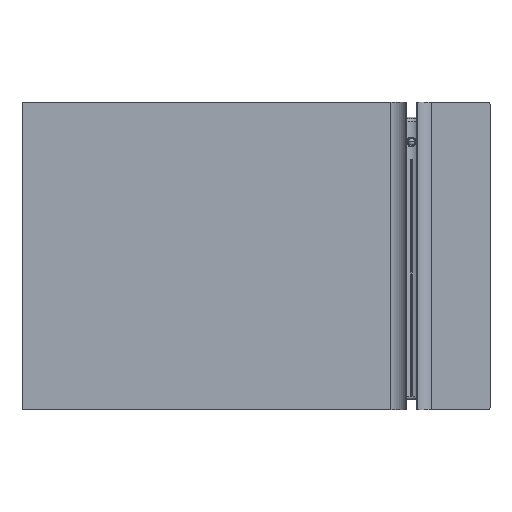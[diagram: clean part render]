
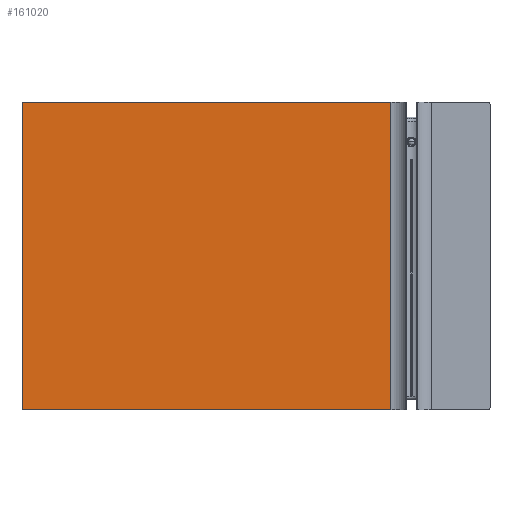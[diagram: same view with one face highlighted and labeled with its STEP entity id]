
A CAD part, top view. The second image highlights one B-rep face of the part: STEP entity #161020.
In plain terms, the highlighted planar face has unit normal (0, 0, 1).
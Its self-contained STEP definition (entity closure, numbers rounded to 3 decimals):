
#160740 = VERTEX_POINT('',#160741);
#160741 = CARTESIAN_POINT('',(3.,-225.,1.5));
#160747 = EDGE_CURVE('',#160748,#160740,#160750,.T.);
#160748 = VERTEX_POINT('',#160749);
#160749 = CARTESIAN_POINT('',(540.,-225.,1.5));
#160750 = LINE('',#160751,#160752);
#160751 = CARTESIAN_POINT('',(540.,-225.,1.5));
#160752 = VECTOR('',#160753,1.);
#160753 = DIRECTION('',(-1.,0.,0.));
#160770 = EDGE_CURVE('',#160771,#160740,#160773,.T.);
#160771 = VERTEX_POINT('',#160772);
#160772 = CARTESIAN_POINT('',(0.,-222.,1.5));
#160773 = CIRCLE('',#160774,3.);
#160774 = AXIS2_PLACEMENT_3D('',#160775,#160776,#160777);
#160775 = CARTESIAN_POINT('',(3.,-222.,1.5));
#160776 = DIRECTION('',(0.,0.,1.));
#160777 = DIRECTION('',(-1.,0.,0.));
#160795 = VERTEX_POINT('',#160796);
#160796 = CARTESIAN_POINT('',(0.,222.,1.5));
#160802 = EDGE_CURVE('',#160771,#160795,#160803,.T.);
#160803 = LINE('',#160804,#160805);
#160804 = CARTESIAN_POINT('',(0.,-222.,1.5));
#160805 = VECTOR('',#160806,1.);
#160806 = DIRECTION('',(0.,1.,0.));
#160819 = EDGE_CURVE('',#160820,#160795,#160822,.T.);
#160820 = VERTEX_POINT('',#160821);
#160821 = CARTESIAN_POINT('',(3.,225.,1.5));
#160822 = CIRCLE('',#160823,3.);
#160823 = AXIS2_PLACEMENT_3D('',#160824,#160825,#160826);
#160824 = CARTESIAN_POINT('',(3.,222.,1.5));
#160825 = DIRECTION('',(0.,-0.,1.));
#160826 = DIRECTION('',(0.,1.,0.));
#160845 = VERTEX_POINT('',#160846);
#160846 = CARTESIAN_POINT('',(540.,225.,1.5));
#160852 = EDGE_CURVE('',#160845,#160820,#160853,.T.);
#160853 = LINE('',#160854,#160855);
#160854 = CARTESIAN_POINT('',(540.,225.,1.5));
#160855 = VECTOR('',#160856,1.);
#160856 = DIRECTION('',(-1.,0.,0.));
#160977 = EDGE_CURVE('',#160748,#160845,#160978,.T.);
#160978 = LINE('',#160979,#160980);
#160979 = CARTESIAN_POINT('',(540.,-225.,1.5));
#160980 = VECTOR('',#160981,1.);
#160981 = DIRECTION('',(0.,1.,0.));
#161020 = ADVANCED_FACE('',(#161021),#161029,.F.);
#161021 = FACE_BOUND('',#161022,.F.);
#161022 = EDGE_LOOP('',(#161023,#161024,#161025,#161026,#161027,#161028)
  );
#161023 = ORIENTED_EDGE('',*,*,#160747,.T.);
#161024 = ORIENTED_EDGE('',*,*,#160770,.F.);
#161025 = ORIENTED_EDGE('',*,*,#160802,.T.);
#161026 = ORIENTED_EDGE('',*,*,#160819,.F.);
#161027 = ORIENTED_EDGE('',*,*,#160852,.F.);
#161028 = ORIENTED_EDGE('',*,*,#160977,.F.);
#161029 = PLANE('',#161030);
#161030 = AXIS2_PLACEMENT_3D('',#161031,#161032,#161033);
#161031 = CARTESIAN_POINT('',(540.,-225.,1.5));
#161032 = DIRECTION('',(0.,0.,-1.));
#161033 = DIRECTION('',(-1.,0.,0.));
